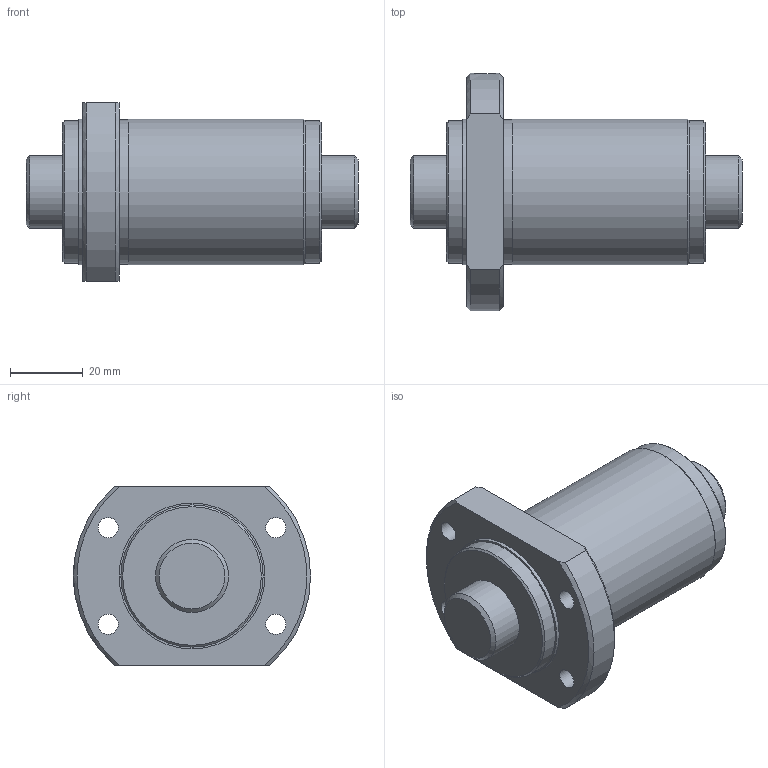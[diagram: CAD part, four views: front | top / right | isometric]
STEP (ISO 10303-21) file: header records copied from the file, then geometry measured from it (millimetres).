
FILE_DESCRIPTION(/* description */ ('STEP AP203'),/* implementation_level */ '2;1');
FILE_NAME(/* name */ 'SBK2030-3.6RRG0+91LC0(0000)',/* time_stamp */ '2024-05-28T11:19:39+02:00',/* author */ ('License CC BY-ND 4.0'),/* organization */ ('CADENAS'),/* preprocessor_version */ 'ST-DEVELOPER v19.3',/* originating_system */ 'PARTsolutions',/* authorisation */ ' ');
FILE_SCHEMA (('CONFIG_CONTROL_DESIGN'));
Length unit declared in the file: millimetre
Products named in the file (3): SBK2030-3.6RRG0+91LC0(0000); NRR000SBK 2030-3.60Shaft; NRR000SBK 2030-3.6Nut
Assembly tree (2 placements, depth 2):
  SBK2030-3.6RRG0+91LC0(0000)
    NRR000SBK 2030-3.60Shaft
    NRR000SBK 2030-3.6Nut
Bounding box: 91 x 65 x 49 mm (x, y, z)
Volume: 109355.6 mm3; surface area: 25936.7 mm2
Topology: 2 solids, 2 shells, 35 faces, 74 edges, 47 vertices
Faces by surface type: cylinder 14, cone 11, plane 10
Full cylindrical faces by diameter (mm): 4.917 x1, 5.5 x4, 20 x2, 39 x2, 39.6 x1, 40 x2
Entity records: 950 total; most frequent: CARTESIAN_POINT 171, DIRECTION 156, ORIENTED_EDGE 106, AXIS2_PLACEMENT_3D 74, FACE_BOUND 69, EDGE_LOOP 68, EDGE_CURVE 53, VERTEX_POINT 46
